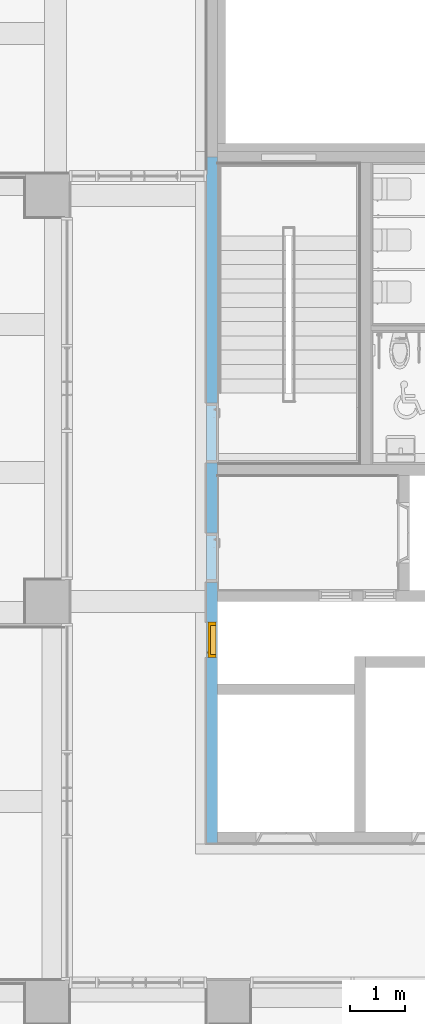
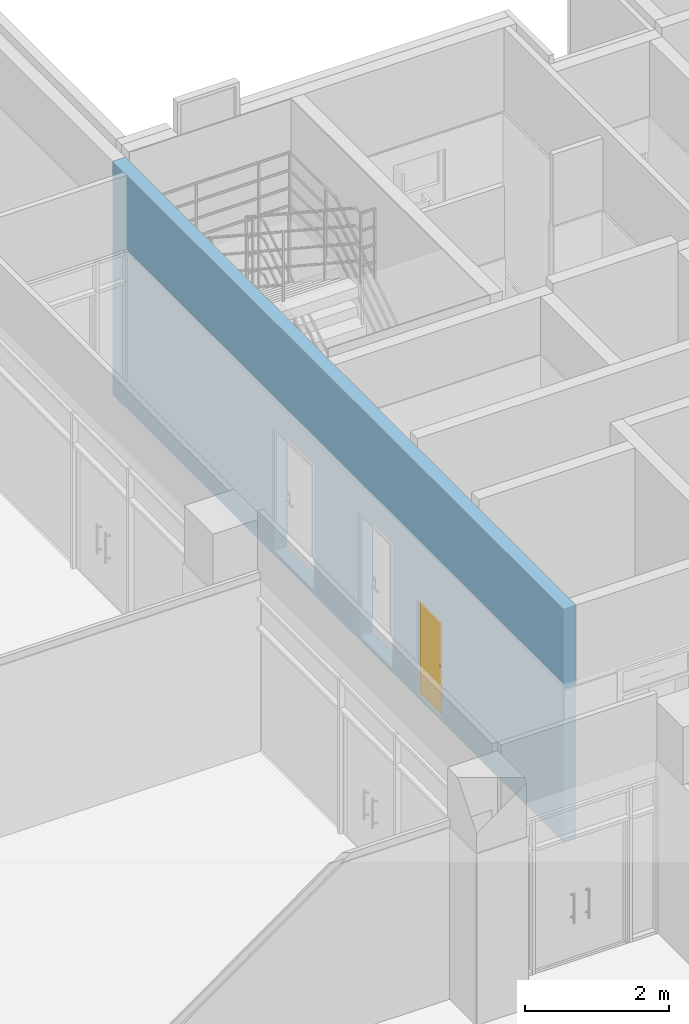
# One storey, part 56 of 81: 1 door, 3 openings, plus 1 element that does not belong to this part.
"""IFC2X3 building model written with IfcOpenShell, lengths in millimetres."""

from ifc_helpers import new_model, entity, si_unit, converted_unit, derived_unit, direction, frame, frame_2d, origin, place, context, subcontext, project, spatial, polyline, rectangle, extrude, clip, bounded_halfspace, faceted_brep, source, transform, mapped, material, material_list, layer, layer_set, layer_usage, type_object, type_shapes, element, fill, save


model = new_model("IFC2X3")

# Units and contexts
model_context = context("Model", 3, precision=0.01, world=origin(), true_north=direction((6.123031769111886e-17, 1.0)))
body_context = subcontext(model_context, "Body", "Model", "MODEL_VIEW")
ifc_project = project(units=[si_unit("LENGTHUNIT", "METRE", prefix="MILLI"), si_unit("AREAUNIT", "SQUARE_METRE"), si_unit("VOLUMEUNIT", "CUBIC_METRE"), converted_unit("PLANEANGLEUNIT", "DEGREE", entity("IfcRatioMeasure", 0.017453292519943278), si_unit("PLANEANGLEUNIT", "RADIAN"), dimensions=[0, 0, 0, 0, 0, 0, 0]), si_unit("MASSUNIT", "GRAM", prefix="KILO"), derived_unit("MASSDENSITYUNIT", [(si_unit("MASSUNIT", "GRAM", prefix="KILO"), 1), (si_unit("LENGTHUNIT", "METRE"), -3)]), derived_unit("MOMENTOFINERTIAUNIT", [(si_unit("LENGTHUNIT", "METRE"), 4)]), si_unit("TIMEUNIT", "SECOND"), si_unit("FREQUENCYUNIT", "HERTZ"), si_unit("THERMODYNAMICTEMPERATUREUNIT", "DEGREE_CELSIUS"), derived_unit("THERMALTRANSMITTANCEUNIT", [(si_unit("MASSUNIT", "GRAM", prefix="KILO"), 1), (si_unit("THERMODYNAMICTEMPERATUREUNIT", "KELVIN"), -1), (si_unit("TIMEUNIT", "SECOND"), -3)]), derived_unit("VOLUMETRICFLOWRATEUNIT", [(si_unit("LENGTHUNIT", "METRE"), 3), (si_unit("TIMEUNIT", "SECOND"), -1)]), derived_unit("MASSFLOWRATEUNIT", [(si_unit("MASSUNIT", "GRAM", prefix="KILO"), 1), (si_unit("TIMEUNIT", "SECOND"), -1)]), derived_unit("ROTATIONALFREQUENCYUNIT", [(si_unit("TIMEUNIT", "SECOND"), -1)]), si_unit("ELECTRICCURRENTUNIT", "AMPERE"), si_unit("ELECTRICVOLTAGEUNIT", "VOLT"), si_unit("POWERUNIT", "WATT"), si_unit("FORCEUNIT", "NEWTON", prefix="KILO"), si_unit("ILLUMINANCEUNIT", "LUX"), si_unit("LUMINOUSFLUXUNIT", "LUMEN"), si_unit("LUMINOUSINTENSITYUNIT", "CANDELA"), derived_unit("USERDEFINED", [(si_unit("MASSUNIT", "GRAM", prefix="KILO"), -1), (si_unit("LENGTHUNIT", "METRE"), -2), (si_unit("TIMEUNIT", "SECOND"), 3), (si_unit("LUMINOUSFLUXUNIT", "LUMEN"), 1)]), derived_unit("SOUNDPOWERUNIT", [(si_unit("MASSUNIT", "GRAM", prefix="KILO"), 1), (si_unit("LENGTHUNIT", "METRE"), 2), (si_unit("TIMEUNIT", "SECOND"), -3)]), derived_unit("SOUNDPRESSUREUNIT", [(si_unit("MASSUNIT", "GRAM", prefix="KILO"), 1), (si_unit("LENGTHUNIT", "METRE"), -1), (si_unit("TIMEUNIT", "SECOND"), -2)]), derived_unit("LINEARVELOCITYUNIT", [(si_unit("LENGTHUNIT", "METRE"), 1), (si_unit("TIMEUNIT", "SECOND"), -1)]), si_unit("PRESSUREUNIT", "PASCAL"), derived_unit("USERDEFINED", [(si_unit("LENGTHUNIT", "METRE"), -2), (si_unit("MASSUNIT", "GRAM", prefix="KILO"), 1), (si_unit("TIMEUNIT", "SECOND"), -2)]), derived_unit("LINEARFORCEUNIT", [(si_unit("MASSUNIT", "GRAM", prefix="KILO"), 1), (si_unit("LENGTHUNIT", "METRE"), 1), (si_unit("TIMEUNIT", "SECOND"), -2), (si_unit("LENGTHUNIT", "METRE"), -1)]), derived_unit("PLANARFORCEUNIT", [(si_unit("MASSUNIT", "GRAM", prefix="KILO"), 1), (si_unit("LENGTHUNIT", "METRE"), 1), (si_unit("TIMEUNIT", "SECOND"), -2), (si_unit("LENGTHUNIT", "METRE"), -2)])], contexts=[model_context])

# Site, building, storey
site_placement = place(None, frame((-14167.972527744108, -657.2125860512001, 0.0)))
site = spatial("IfcSite", under=ifc_project, at=site_placement, Name="Default", CompositionType="ELEMENT")
building_placement = place(site_placement, origin())
building = spatial("IfcBuilding", under=site, at=building_placement, Name="Sample Building", CompositionType="ELEMENT")
storey_placement = place(building_placement, frame((0.0, 0.0, 13400.0)))
storey = spatial("IfcBuildingStorey", under=building, at=storey_placement, Name="지상 4층", CompositionType="ELEMENT", Elevation=13400.00000000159)

# Wall, openings, door
ifc_material_1 = material(Name="KBIMS-콘크리트")
ifc_layer = layer(ifc_material_1, 200.0)
ifc_layer_set = layer_set([ifc_layer], Name="기본 벽:WA111-철근콘크리트구조 벽 200mm_CW1")
ifc_layer_usage = layer_usage(ifc_layer_set, "AXIS2", "NEGATIVE", 100.0)
wall_type = type_object("IfcWallType", Name="기본 벽:WA111-철근콘크리트구조 벽 200mm_CW1", PredefinedType="STANDARD", material=ifc_layer_set)
wall_placement = place(storey_placement, frame((30167.96376153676, 15557.30294707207, -2.3000097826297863e-09), z_axis=(0.0, 0.0, 1.0), x_axis=(0.0, 1.0, 0.0)))
wall = element("IfcWallStandardCase", 1, at=wall_placement, inside=storey, type_object=wall_type, material=ifc_layer_usage, Name="기본 벽:WA111-철근콘크리트구조 벽 200mm_CW1", ObjectType="기본 벽:WA111-철근콘크리트구조 벽 200mm_CW1", context=body_context, shape_type="Clipping", body=[
    clip(extrude(rectangle(XDim=12499.909360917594, YDim=200.00000000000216, at=frame_2d((6249.954680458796, -2.1671553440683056e-12), x_axis=(-1.0, 0.0))), origin(), (0.0, 0.0, 1.0), 3950.0000000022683), bounded_halfspace(frame((6899.909364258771, -100.0, 3950.0), z_axis=(0.0, 0.0, -1.0), x_axis=(0.0, -1.0, 0.0)), True, frame((6899.909364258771, -100.0, 3950.0), z_axis=(0.0, 0.0, -1.0), x_axis=(0.0, -1.0, 0.0)), polyline([(0.0, 0.0), (0.0, 60960.0), (0.0, 762000.0), (0.0, 2042160.0049346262), (0.0, 2103092.3742260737), (-60960.0, 2103092.374226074), (-60960.0, 2042159.910736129), (-60960.0, 822959.9068200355), (-60960.0, 701039.9068200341), (-60960.0, -1706880.0), (0.0, -1706880.0), (0.0, 0.0)]))),
])
opening_1_placement = place(wall_placement, frame((5649.874678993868, 100.0, 80.0)))
element("IfcOpeningElement", 2, at=opening_1_placement, cuts=wall, Name="DR111-외여닫이문(철재, 일반):DR111-외여닫이문(철재, 일반) 900x2100mm:1", ObjectType="Opening", context=body_context, shape_type="SweptSolid", body=[
    extrude(rectangle(XDim=2099.999999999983, YDim=900.0000000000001, at=frame_2d((1049.999999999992, 450.00000000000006), x_axis=(1.0, 0.0))), frame((0.0, 0.0, 0.0), z_axis=(0.0, -1.0, 0.0), x_axis=(0.0, 0.0, 1.0)), (0.0, 0.0, 1.0), 200.0),
])
opening_2_placement = place(wall_placement, frame((8019.874680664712, 100.0, 80.0)))
element("IfcOpeningElement", 3, at=opening_2_placement, cuts=wall, Name="DR111-외여닫이문(철재, 일반):DR111-외여닫이문(철재, 일반) 1100x2100mm 2:1", ObjectType="Opening", context=body_context, shape_type="SweptSolid", body=[
    extrude(rectangle(XDim=2099.999999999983, YDim=1100.0, at=frame_2d((1049.999999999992, 550.0), x_axis=(1.0, 0.0))), frame((0.0, 0.0, 0.0), z_axis=(0.0, -1.0, 0.0), x_axis=(0.0, 0.0, 1.0)), (0.0, 0.0, 1.0), 200.0),
])
opening_3_placement = place(wall_placement, frame((3374.8747316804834, -100.0, 80.0)))
opening_3 = element("IfcOpeningElement", 4, at=opening_3_placement, cuts=wall, Name="DR872-샤프트 점검구(스테인리스 스틸):DR872-샤프트 점검구(스테인리스 스틸)_650x1600:1", ObjectType="Opening", context=body_context, shape_type="SweptSolid", body=[
    extrude(rectangle(XDim=1600.0, YDim=649.9999999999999, at=frame_2d((800.0, 324.99999999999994), x_axis=(1.0, 0.0))), frame((0.0, 0.0, 0.0), z_axis=(0.0, 1.0, 0.0), x_axis=(0.0, 0.0, 1.0)), (0.0, 0.0, 1.0), 200.0),
])
ifc_material_2 = material(Name="KBIMS-스테인리스 스틸_도금")
ifc_material_list = material_list([ifc_material_2, ifc_material_2, ifc_material_2, ifc_material_2])
door_style = type_object("IfcDoorStyle", Name="DR872-샤프트 점검구(스테인리스 스틸):DR872-샤프트 점검구(스테인리스 스틸)_650x1600", ConstructionType="NOTDEFINED", OperationType="SINGLE_SWING_LEFT", ParameterTakesPrecedence=False, Sizeable=False, material=ifc_material_list)
shared_shape = source(origin(), body_context, "Body", "Brep", [
    faceted_brep([(105.0, 125.0, 782.6794919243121), (109.14213562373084, 125.0, 785.85786437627), (102.50000000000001, 125.0, 787.0096189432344), (98.88228567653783, 125.0, 785.5111126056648), (100.17638090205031, 125.0, 780.6814834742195), (105.60660171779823, 125.0, 789.3933982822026), (112.32050807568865, 125.0, 790.0), (107.99038105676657, 125.0, 792.5000000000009), (109.488887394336, 125.0, 796.1177143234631), (114.31851652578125, 125.0, 794.8236190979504), (110.0, 125.0, 800.0), (115.0, 125.0, 800.0), (109.48888739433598, 125.0, 803.8822856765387), (114.31851652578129, 125.0, 805.1763809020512), (107.99038105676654, 125.0, 807.5000000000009), (112.32050807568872, 125.0, 810.0), (105.60660171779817, 125.0, 810.6066017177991), (109.14213562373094, 125.0, 814.1421356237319), (102.49999999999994, 125.0, 812.9903810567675), (105.0, 125.0, 817.3205080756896), (98.88228567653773, 125.0, 814.4888873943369), (100.17638090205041, 125.0, 819.3185165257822), (95.0, 125.0, 815.0), (95.0, 125.0, 820.0), (91.11771432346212, 125.0, 814.4888873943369), (89.8236190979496, 125.0, 819.3185165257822), (87.49999999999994, 125.0, 812.9903810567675), (85.0, 125.0, 817.3205080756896), (84.39339828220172, 125.0, 810.6066017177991), (80.85786437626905, 125.0, 814.142135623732), (82.00961894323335, 125.0, 807.5000000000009), (77.67949192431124, 125.0, 810.0), (75.6814834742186, 125.0, 805.1763809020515), (80.51111260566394, 125.0, 803.8822856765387), (75.0, 125.0, 800.0), (80.0, 125.0, 800.0), (75.68148347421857, 125.0, 794.8236190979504), (80.51111260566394, 125.0, 796.117714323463), (77.67949192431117, 125.0, 790.0), (82.00961894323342, 125.0, 792.5000000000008), (80.85786437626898, 125.0, 785.85786437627), (84.39339828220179, 125.0, 789.3933982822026), (85.0, 125.0, 782.6794919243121), (87.50000000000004, 125.0, 787.0096189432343), (89.8236190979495, 125.0, 780.6814834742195), (91.11771432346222, 125.0, 785.5111126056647), (95.0, 125.0, 780.0), (95.0, 125.0, 785.0), (105.0, 130.0, 817.3205080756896), (109.14213562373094, 130.0, 814.1421356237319), (102.49999999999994, 130.0, 812.9903810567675), (98.88228567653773, 130.0, 814.4888873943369), (100.17638090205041, 130.0, 819.3185165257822), (105.60660171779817, 130.0, 810.6066017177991), (112.32050807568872, 130.0, 810.0), (107.99038105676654, 130.0, 807.5000000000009), (109.48888739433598, 130.0, 803.8822856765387), (114.31851652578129, 130.0, 805.1763809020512), (110.0, 130.0, 800.0), (115.0, 130.0, 800.0), (109.488887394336, 130.0, 796.1177143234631), (114.31851652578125, 130.0, 794.8236190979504), (107.99038105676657, 130.0, 792.5000000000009), (112.32050807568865, 130.0, 790.0), (105.60660171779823, 130.0, 789.3933982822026), (109.14213562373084, 130.0, 785.85786437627), (102.50000000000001, 130.0, 787.0096189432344), (105.0, 130.0, 782.6794919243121), (98.88228567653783, 130.0, 785.5111126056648), (100.17638090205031, 130.0, 780.6814834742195), (95.0, 130.0, 785.0), (95.0, 130.0, 780.0), (91.11771432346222, 130.0, 785.5111126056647), (89.8236190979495, 130.0, 780.6814834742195), (87.50000000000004, 130.0, 787.0096189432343), (85.0, 130.0, 782.6794919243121), (84.39339828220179, 130.0, 789.3933982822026), (80.85786437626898, 130.0, 785.85786437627), (82.00961894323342, 130.0, 792.5000000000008), (77.67949192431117, 130.0, 790.0), (75.68148347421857, 130.0, 794.8236190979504), (80.51111260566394, 130.0, 796.117714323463), (75.0, 130.0, 800.0), (80.0, 130.0, 800.0), (75.6814834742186, 130.0, 805.1763809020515), (80.51111260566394, 130.0, 803.8822856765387), (77.67949192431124, 130.0, 810.0), (82.00961894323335, 130.0, 807.5000000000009), (80.85786437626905, 130.0, 814.142135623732), (84.39339828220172, 130.0, 810.6066017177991), (85.0, 130.0, 817.3205080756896), (87.49999999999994, 130.0, 812.9903810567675), (89.8236190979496, 130.0, 819.3185165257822), (91.11771432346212, 130.0, 814.4888873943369), (95.0, 130.0, 820.0), (95.0, 130.0, 815.0)], [[[0, 1, 2]], [[0, 2, 3]], [[3, 4, 0]], [[2, 1, 5]], [[6, 5, 1]], [[7, 5, 6]], [[8, 7, 6]], [[8, 6, 9]], [[8, 9, 10]], [[10, 9, 11]], [[12, 10, 11]], [[12, 11, 13]], [[14, 12, 13]], [[14, 13, 15]], [[16, 14, 15]], [[15, 17, 16]], [[17, 18, 16]], [[18, 17, 19]], [[18, 19, 20]], [[21, 20, 19]], [[20, 21, 22]], [[22, 21, 23]], [[23, 24, 22]], [[24, 23, 25]], [[24, 25, 26]], [[27, 26, 25]], [[27, 28, 26]], [[27, 29, 28]], [[30, 28, 29]], [[31, 30, 29]], [[32, 30, 31]], [[33, 30, 32]], [[33, 32, 34]], [[34, 35, 33]], [[36, 35, 34]], [[36, 37, 35]], [[37, 36, 38]], [[39, 37, 38]], [[39, 38, 40]], [[39, 40, 41]], [[40, 42, 41]], [[41, 42, 43]], [[43, 42, 44]], [[44, 45, 43]], [[46, 45, 44]], [[4, 47, 46]], [[45, 46, 47]], [[4, 3, 47]], [[48, 49, 50]], [[48, 50, 51]], [[51, 52, 48]], [[50, 49, 53]], [[54, 53, 49]], [[55, 53, 54]], [[56, 55, 54]], [[56, 54, 57]], [[56, 57, 58]], [[58, 57, 59]], [[60, 58, 59]], [[60, 59, 61]], [[62, 60, 61]], [[62, 61, 63]], [[64, 62, 63]], [[63, 65, 64]], [[65, 66, 64]], [[66, 65, 67]], [[66, 67, 68]], [[69, 68, 67]], [[68, 69, 70]], [[70, 69, 71]], [[71, 72, 70]], [[72, 71, 73]], [[72, 73, 74]], [[75, 74, 73]], [[75, 76, 74]], [[75, 77, 76]], [[78, 76, 77]], [[79, 78, 77]], [[80, 78, 79]], [[81, 78, 80]], [[81, 80, 82]], [[82, 83, 81]], [[84, 83, 82]], [[84, 85, 83]], [[85, 84, 86]], [[87, 85, 86]], [[87, 86, 88]], [[87, 88, 89]], [[88, 90, 89]], [[89, 90, 91]], [[91, 90, 92]], [[92, 93, 91]], [[94, 93, 92]], [[52, 95, 94]], [[93, 94, 95]], [[52, 51, 95]], [[10, 58, 60, 8]], [[8, 60, 62, 7]], [[2, 5, 64, 66]], [[62, 64, 5, 7]], [[3, 2, 66, 68]], [[70, 47, 3, 68]], [[45, 72, 74, 43]], [[43, 74, 76, 41]], [[37, 39, 78, 81]], [[76, 78, 39, 41]], [[35, 37, 81, 83]], [[45, 47, 70, 72]], [[35, 83, 85, 33]], [[33, 85, 87, 30]], [[26, 28, 89, 91]], [[87, 89, 28, 30]], [[24, 26, 91, 93]], [[95, 22, 24, 93]], [[20, 51, 50, 18]], [[18, 50, 53, 16]], [[12, 14, 55, 56]], [[53, 55, 14, 16]], [[10, 12, 56, 58]], [[20, 22, 95, 51]], [[57, 13, 11, 59]], [[54, 15, 13, 57]], [[19, 17, 49, 48]], [[54, 49, 17, 15]], [[21, 19, 48, 52]], [[23, 21, 52, 94]], [[92, 25, 23, 94]], [[90, 27, 25, 92]], [[31, 29, 88, 86]], [[90, 88, 29, 27]], [[32, 31, 86, 84]], [[34, 32, 84, 82]], [[80, 36, 34, 82]], [[79, 38, 36, 80]], [[42, 40, 77, 75]], [[79, 77, 40, 38]], [[44, 42, 75, 73]], [[46, 44, 73, 71]], [[69, 4, 46, 71]], [[67, 0, 4, 69]], [[6, 1, 65, 63]], [[67, 65, 1, 0]], [[9, 6, 63, 61]], [[11, 9, 61, 59]]]),
    faceted_brep([(85.0, 180.0, 782.6794919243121), (80.85786437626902, 180.0, 785.85786437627), (87.4999999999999, 180.0, 787.0096189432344), (91.11771432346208, 180.0, 785.5111126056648), (89.82361909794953, 180.0, 780.6814834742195), (84.39339828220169, 180.0, 789.3933982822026), (77.6794919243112, 180.0, 790.0), (82.00961894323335, 180.0, 792.5000000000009), (80.51111260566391, 180.0, 796.1177143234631), (75.6814834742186, 180.0, 794.8236190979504), (80.0, 180.0, 800.0), (75.0, 180.0, 800.0), (80.51111260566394, 180.0, 803.8822856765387), (75.68148347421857, 180.0, 805.1763809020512), (82.00961894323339, 180.0, 807.5000000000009), (77.67949192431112, 180.0, 810.0), (84.39339828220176, 180.0, 810.6066017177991), (80.85786437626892, 180.0, 814.1421356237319), (87.49999999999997, 180.0, 812.9903810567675), (85.0, 180.0, 817.3205080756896), (91.11771432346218, 180.0, 814.4888873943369), (89.82361909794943, 180.0, 819.3185165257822), (95.0, 180.0, 815.0), (95.0, 180.0, 820.0), (98.8822856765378, 180.0, 814.4888873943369), (100.17638090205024, 180.0, 819.3185165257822), (102.49999999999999, 180.0, 812.9903810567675), (105.0, 180.0, 817.3205080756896), (105.6066017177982, 180.0, 810.6066017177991), (109.1421356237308, 180.0, 814.142135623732), (107.99038105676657, 180.0, 807.5000000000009), (112.32050807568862, 180.0, 810.0), (114.31851652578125, 180.0, 805.1763809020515), (109.48888739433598, 180.0, 803.8822856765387), (115.0, 180.0, 800.0), (110.0, 180.0, 800.0), (114.31851652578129, 180.0, 794.8236190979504), (109.48888739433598, 180.0, 796.117714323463), (112.32050807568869, 180.0, 790.0), (107.9903810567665, 180.0, 792.5000000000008), (109.14213562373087, 180.0, 785.85786437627), (105.60660171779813, 180.0, 789.3933982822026), (105.0, 180.0, 782.6794919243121), (102.49999999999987, 180.0, 787.0096189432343), (100.17638090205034, 180.0, 780.6814834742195), (98.8822856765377, 180.0, 785.5111126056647), (95.0, 180.0, 780.0), (95.0, 180.0, 785.0), (85.0, 175.0, 817.3205080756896), (80.85786437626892, 175.0, 814.1421356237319), (87.49999999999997, 175.0, 812.9903810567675), (91.11771432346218, 175.0, 814.4888873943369), (89.82361909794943, 175.0, 819.3185165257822), (84.39339828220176, 175.0, 810.6066017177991), (77.67949192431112, 175.0, 810.0), (82.00961894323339, 175.0, 807.5000000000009), (80.51111260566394, 175.0, 803.8822856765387), (75.68148347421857, 175.0, 805.1763809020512), (80.0, 175.0, 800.0), (75.0, 175.0, 800.0), (80.51111260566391, 175.0, 796.1177143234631), (75.6814834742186, 175.0, 794.8236190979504), (82.00961894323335, 175.0, 792.5000000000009), (77.6794919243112, 175.0, 790.0), (84.39339828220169, 175.0, 789.3933982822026), (80.85786437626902, 175.0, 785.85786437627), (87.4999999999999, 175.0, 787.0096189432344), (85.0, 175.0, 782.6794919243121), (91.11771432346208, 175.0, 785.5111126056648), (89.82361909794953, 175.0, 780.6814834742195), (95.0, 175.0, 785.0), (95.0, 175.0, 780.0), (98.8822856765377, 175.0, 785.5111126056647), (100.17638090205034, 175.0, 780.6814834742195), (102.49999999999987, 175.0, 787.0096189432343), (105.0, 175.0, 782.6794919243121), (105.60660171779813, 175.0, 789.3933982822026), (109.14213562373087, 175.0, 785.85786437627), (107.9903810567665, 175.0, 792.5000000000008), (112.32050807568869, 175.0, 790.0), (114.31851652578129, 175.0, 794.8236190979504), (109.48888739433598, 175.0, 796.117714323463), (115.0, 175.0, 800.0), (110.0, 175.0, 800.0), (114.31851652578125, 175.0, 805.1763809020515), (109.48888739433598, 175.0, 803.8822856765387), (112.32050807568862, 175.0, 810.0), (107.99038105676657, 175.0, 807.5000000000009), (109.1421356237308, 175.0, 814.142135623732), (105.6066017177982, 175.0, 810.6066017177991), (105.0, 175.0, 817.3205080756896), (102.49999999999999, 175.0, 812.9903810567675), (100.17638090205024, 175.0, 819.3185165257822), (98.8822856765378, 175.0, 814.4888873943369), (95.0, 175.0, 820.0), (95.0, 175.0, 815.0)], [[[0, 1, 2]], [[0, 2, 3]], [[3, 4, 0]], [[2, 1, 5]], [[6, 5, 1]], [[7, 5, 6]], [[8, 7, 6]], [[8, 6, 9]], [[8, 9, 10]], [[10, 9, 11]], [[12, 10, 11]], [[12, 11, 13]], [[14, 12, 13]], [[14, 13, 15]], [[16, 14, 15]], [[15, 17, 16]], [[17, 18, 16]], [[18, 17, 19]], [[18, 19, 20]], [[21, 20, 19]], [[20, 21, 22]], [[22, 21, 23]], [[23, 24, 22]], [[24, 23, 25]], [[24, 25, 26]], [[27, 26, 25]], [[27, 28, 26]], [[27, 29, 28]], [[30, 28, 29]], [[31, 30, 29]], [[32, 30, 31]], [[33, 30, 32]], [[33, 32, 34]], [[34, 35, 33]], [[36, 35, 34]], [[36, 37, 35]], [[37, 36, 38]], [[39, 37, 38]], [[39, 38, 40]], [[39, 40, 41]], [[40, 42, 41]], [[41, 42, 43]], [[43, 42, 44]], [[44, 45, 43]], [[46, 45, 44]], [[4, 47, 46]], [[45, 46, 47]], [[4, 3, 47]], [[48, 49, 50]], [[48, 50, 51]], [[51, 52, 48]], [[50, 49, 53]], [[54, 53, 49]], [[55, 53, 54]], [[56, 55, 54]], [[56, 54, 57]], [[56, 57, 58]], [[58, 57, 59]], [[60, 58, 59]], [[60, 59, 61]], [[62, 60, 61]], [[62, 61, 63]], [[64, 62, 63]], [[63, 65, 64]], [[65, 66, 64]], [[66, 65, 67]], [[66, 67, 68]], [[69, 68, 67]], [[68, 69, 70]], [[70, 69, 71]], [[71, 72, 70]], [[72, 71, 73]], [[72, 73, 74]], [[75, 74, 73]], [[75, 76, 74]], [[75, 77, 76]], [[78, 76, 77]], [[79, 78, 77]], [[80, 78, 79]], [[81, 78, 80]], [[81, 80, 82]], [[82, 83, 81]], [[84, 83, 82]], [[84, 85, 83]], [[85, 84, 86]], [[87, 85, 86]], [[87, 86, 88]], [[87, 88, 89]], [[88, 90, 89]], [[89, 90, 91]], [[91, 90, 92]], [[92, 93, 91]], [[94, 93, 92]], [[52, 95, 94]], [[93, 94, 95]], [[52, 51, 95]], [[35, 83, 85, 33]], [[33, 85, 87, 30]], [[26, 28, 89, 91]], [[87, 89, 28, 30]], [[24, 26, 91, 93]], [[95, 22, 24, 93]], [[20, 51, 50, 18]], [[18, 50, 53, 16]], [[12, 14, 55, 56]], [[53, 55, 14, 16]], [[10, 12, 56, 58]], [[20, 22, 95, 51]], [[10, 58, 60, 8]], [[8, 60, 62, 7]], [[2, 5, 64, 66]], [[62, 64, 5, 7]], [[3, 2, 66, 68]], [[70, 47, 3, 68]], [[45, 72, 74, 43]], [[43, 74, 76, 41]], [[37, 39, 78, 81]], [[76, 78, 39, 41]], [[35, 37, 81, 83]], [[45, 47, 70, 72]], [[80, 36, 34, 82]], [[79, 38, 36, 80]], [[42, 40, 77, 75]], [[79, 77, 40, 38]], [[44, 42, 75, 73]], [[46, 44, 73, 71]], [[69, 4, 46, 71]], [[67, 0, 4, 69]], [[6, 1, 65, 63]], [[67, 65, 1, 0]], [[9, 6, 63, 61]], [[11, 9, 61, 59]], [[57, 13, 11, 59]], [[54, 15, 13, 57]], [[19, 17, 49, 48]], [[54, 49, 17, 15]], [[21, 19, 48, 52]], [[23, 21, 52, 94]], [[92, 25, 23, 94]], [[90, 27, 25, 92]], [[31, 29, 88, 86]], [[90, 88, 29, 27]], [[32, 31, 86, 84]], [[34, 32, 84, 82]]]),
    faceted_brep([(620.0, 175.0, 1570.0), (30.0, 175.0, 1570.0), (30.0, 130.0, 1570.0), (620.0, 130.0, 1570.0), (620.0, 175.0, 30.0), (620.0, 130.0, 30.0), (30.0, 130.0, 30.0), (30.0, 175.0, 30.0)], [[[0, 1, 2, 3]], [[4, 5, 6, 7]], [[1, 0, 4, 7]], [[2, 1, 7, 6]], [[3, 2, 6, 5]], [[0, 3, 5, 4]]]),
    faceted_brep([(30.0, 130.0, 1570.0), (30.0, 175.0, 1570.0), (620.0, 175.0, 1570.0), (620.0, 130.0, 1570.0), (60.0, 25.0, 1540.0), (60.0, 130.0, 1540.0), (590.0, 130.0, 1540.0), (590.0, 25.0, 1540.0), (0.0, 175.0, 1600.0), (0.0, 25.0, 1600.0), (650.0, 25.0, 1600.0), (650.0, 175.0, 1600.0), (620.0, 175.0, 30.0), (620.0, 130.0, 30.0), (590.0, 130.0, 60.0), (590.0, 25.0, 60.0), (650.0, 25.0, 0.0), (650.0, 175.0, 0.0), (30.0, 175.0, 30.0), (30.0, 130.0, 30.0), (60.0, 130.0, 60.0), (60.0, 25.0, 60.0), (0.0, 25.0, 0.0), (0.0, 175.0, 0.0)], [[[0, 1, 2, 3]], [[4, 5, 6, 7]], [[8, 9, 10, 11]], [[3, 2, 12, 13]], [[7, 6, 14, 15]], [[11, 10, 16, 17]], [[13, 12, 18, 19]], [[15, 14, 20, 21]], [[17, 16, 22, 23]], [[19, 18, 1, 0]], [[3, 13, 19, 0], [5, 20, 14, 6]], [[21, 20, 5, 4]], [[7, 15, 21, 4], [9, 22, 16, 10]], [[23, 22, 9, 8]], [[11, 17, 23, 8], [1, 18, 12, 2]]], outer=[[True], [True], [True], [True], [True], [True], [True], [True], [True], [True], [True, False], [True], [False, True], [True], [True, False]]),
])
type_shapes(door_style, [shared_shape])
door_placement = place(opening_3_placement, frame((0.0, 0.0, 2.2992026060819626e-09)))
door = element("IfcDoor", 5, at=door_placement, inside=storey, type_object=door_style, material=ifc_material_2, Name="DR872-샤프트 점검구(스테인리스 스틸):DR872-샤프트 점검구(스테인리스 스틸)_650x1600", ObjectType="DR872-샤프트 점검구(스테인리스 스틸):DR872-샤프트 점검구(스테인리스 스틸)_650x1600", OverallHeight=1600.0, OverallWidth=649.9999999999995, context=body_context, shape_type="MappedRepresentation", body=[
    mapped(shared_shape, transform((0.0, 0.0, 0.0), scale=1.0)),
])
fill(opening_3, door)

save(model, "model.ifc")
